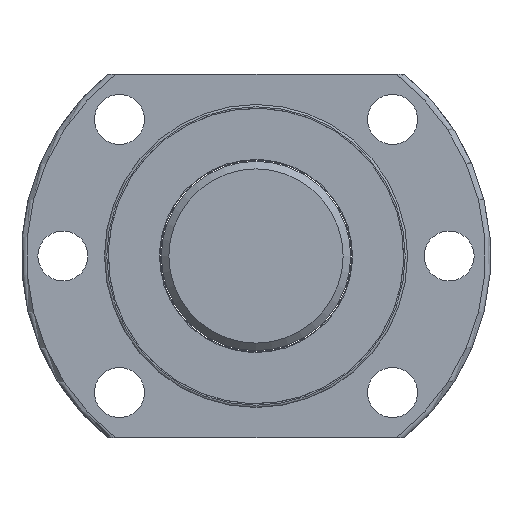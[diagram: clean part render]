
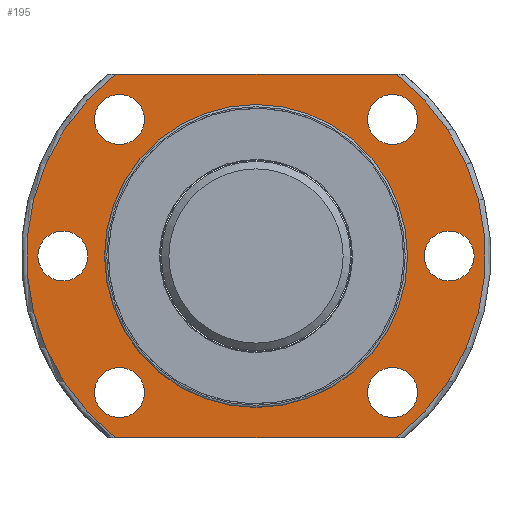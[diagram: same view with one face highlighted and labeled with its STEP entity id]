
A CAD part, left-side view. The second image highlights one B-rep face of the part: STEP entity #195.
In plain terms, the highlighted planar face has unit normal (-1, 0, 0).
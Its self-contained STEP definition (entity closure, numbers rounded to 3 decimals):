
#107=LINE('',#1298,#115);
#108=LINE('',#1302,#116);
#115=VECTOR('',#1025,1.);
#116=VECTOR('',#1028,1.);
#195=ADVANCED_FACE('',(#278,#279,#280,#281,#329,#282,#283,#284),#228,.F.);
#228=PLANE('',#848);
#278=FACE_BOUND('',#398,.T.);
#279=FACE_BOUND('',#399,.T.);
#280=FACE_BOUND('',#400,.T.);
#281=FACE_BOUND('',#401,.T.);
#282=FACE_BOUND('',#403,.T.);
#283=FACE_BOUND('',#404,.T.);
#284=FACE_BOUND('',#405,.T.);
#329=FACE_OUTER_BOUND('',#402,.T.);
#398=EDGE_LOOP('',(#514));
#399=EDGE_LOOP('',(#515));
#400=EDGE_LOOP('',(#516));
#401=EDGE_LOOP('',(#517));
#402=EDGE_LOOP('',(#518,#519,#520,#521));
#403=EDGE_LOOP('',(#522));
#404=EDGE_LOOP('',(#523));
#405=EDGE_LOOP('',(#524));
#514=ORIENTED_EDGE('',*,*,#692,.T.);
#515=ORIENTED_EDGE('',*,*,#693,.T.);
#516=ORIENTED_EDGE('',*,*,#694,.F.);
#517=ORIENTED_EDGE('',*,*,#695,.F.);
#518=ORIENTED_EDGE('',*,*,#677,.T.);
#519=ORIENTED_EDGE('',*,*,#696,.T.);
#520=ORIENTED_EDGE('',*,*,#697,.T.);
#521=ORIENTED_EDGE('',*,*,#698,.T.);
#522=ORIENTED_EDGE('',*,*,#699,.F.);
#523=ORIENTED_EDGE('',*,*,#700,.T.);
#524=ORIENTED_EDGE('',*,*,#701,.F.);
#613=VERTEX_POINT('',#1205);
#614=VERTEX_POINT('',#1207);
#626=VERTEX_POINT('',#1291);
#627=VERTEX_POINT('',#1293);
#628=VERTEX_POINT('',#1295);
#629=VERTEX_POINT('',#1297);
#630=VERTEX_POINT('',#1299);
#631=VERTEX_POINT('',#1301);
#632=VERTEX_POINT('',#1304);
#633=VERTEX_POINT('',#1306);
#634=VERTEX_POINT('',#1308);
#677=EDGE_CURVE('',#614,#613,#745,.T.);
#692=EDGE_CURVE('',#626,#626,#755,.T.);
#693=EDGE_CURVE('',#627,#627,#756,.T.);
#694=EDGE_CURVE('',#628,#628,#757,.T.);
#695=EDGE_CURVE('',#629,#629,#758,.T.);
#696=EDGE_CURVE('',#613,#630,#107,.T.);
#697=EDGE_CURVE('',#630,#631,#759,.T.);
#698=EDGE_CURVE('',#631,#614,#108,.T.);
#699=EDGE_CURVE('',#632,#632,#760,.T.);
#700=EDGE_CURVE('',#633,#633,#761,.T.);
#701=EDGE_CURVE('',#634,#634,#762,.T.);
#745=CIRCLE('',#827,30.3);
#755=CIRCLE('',#840,3.3);
#756=CIRCLE('',#841,3.3);
#757=CIRCLE('',#842,3.3);
#758=CIRCLE('',#843,20.);
#759=CIRCLE('',#844,30.3);
#760=CIRCLE('',#845,3.3);
#761=CIRCLE('',#846,3.3);
#762=CIRCLE('',#847,3.3);
#827=AXIS2_PLACEMENT_3D('',#1206,#989,#990);
#840=AXIS2_PLACEMENT_3D('',#1290,#1017,#1018);
#841=AXIS2_PLACEMENT_3D('',#1292,#1019,#1020);
#842=AXIS2_PLACEMENT_3D('',#1294,#1021,#1022);
#843=AXIS2_PLACEMENT_3D('',#1296,#1023,#1024);
#844=AXIS2_PLACEMENT_3D('',#1300,#1026,#1027);
#845=AXIS2_PLACEMENT_3D('',#1303,#1029,#1030);
#846=AXIS2_PLACEMENT_3D('',#1305,#1031,#1032);
#847=AXIS2_PLACEMENT_3D('',#1307,#1033,#1034);
#848=AXIS2_PLACEMENT_3D('',#1309,#1035,#1036);
#989=DIRECTION('',(-1.,0.,0.));
#990=DIRECTION('',(0.,0.,-1.));
#1017=DIRECTION('',(1.,0.,0.));
#1018=DIRECTION('',(0.,0.,-1.));
#1019=DIRECTION('',(1.,0.,0.));
#1020=DIRECTION('',(0.,0.,-1.));
#1021=DIRECTION('',(-1.,0.,0.));
#1022=DIRECTION('',(0.,0.,-1.));
#1023=DIRECTION('',(-1.,0.,0.));
#1024=DIRECTION('',(0.,0.,1.));
#1025=DIRECTION('',(0.,1.,0.));
#1026=DIRECTION('',(-1.,0.,0.));
#1027=DIRECTION('',(0.,0.,-1.));
#1028=DIRECTION('',(0.,-1.,0.));
#1029=DIRECTION('',(-1.,0.,0.));
#1030=DIRECTION('',(0.,0.,-1.));
#1031=DIRECTION('',(1.,0.,0.));
#1032=DIRECTION('',(0.,0.,-1.));
#1033=DIRECTION('',(-1.,0.,0.));
#1034=DIRECTION('',(0.,0.,-1.));
#1035=DIRECTION('',(1.,0.,0.));
#1036=DIRECTION('',(0.,0.,-1.));
#1205=CARTESIAN_POINT('',(48.,-18.496,24.));
#1206=CARTESIAN_POINT('',(48.,0.,0.));
#1207=CARTESIAN_POINT('',(48.,-18.496,-24.));
#1290=CARTESIAN_POINT('',(48.,25.5,0.));
#1291=CARTESIAN_POINT('',(48.,25.5,-3.3));
#1292=CARTESIAN_POINT('',(48.,18.031,18.031));
#1293=CARTESIAN_POINT('',(48.,18.031,14.731));
#1294=CARTESIAN_POINT('',(48.,-25.5,0.));
#1295=CARTESIAN_POINT('',(48.,-25.5,-3.3));
#1296=CARTESIAN_POINT('',(48.,0.,0.));
#1297=CARTESIAN_POINT('',(48.,0.,20.));
#1298=CARTESIAN_POINT('',(48.,-35.179,24.));
#1299=CARTESIAN_POINT('',(48.,18.496,24.));
#1300=CARTESIAN_POINT('',(48.,0.,0.));
#1301=CARTESIAN_POINT('',(48.,18.496,-24.));
#1302=CARTESIAN_POINT('',(48.,-35.179,-24.));
#1303=CARTESIAN_POINT('',(48.,-18.031,18.031));
#1304=CARTESIAN_POINT('',(48.,-18.031,14.731));
#1305=CARTESIAN_POINT('',(48.,-18.031,-18.031));
#1306=CARTESIAN_POINT('',(48.,-18.031,-21.331));
#1307=CARTESIAN_POINT('',(48.,18.031,-18.031));
#1308=CARTESIAN_POINT('',(48.,18.031,-21.331));
#1309=CARTESIAN_POINT('',(48.,-35.179,0.));
